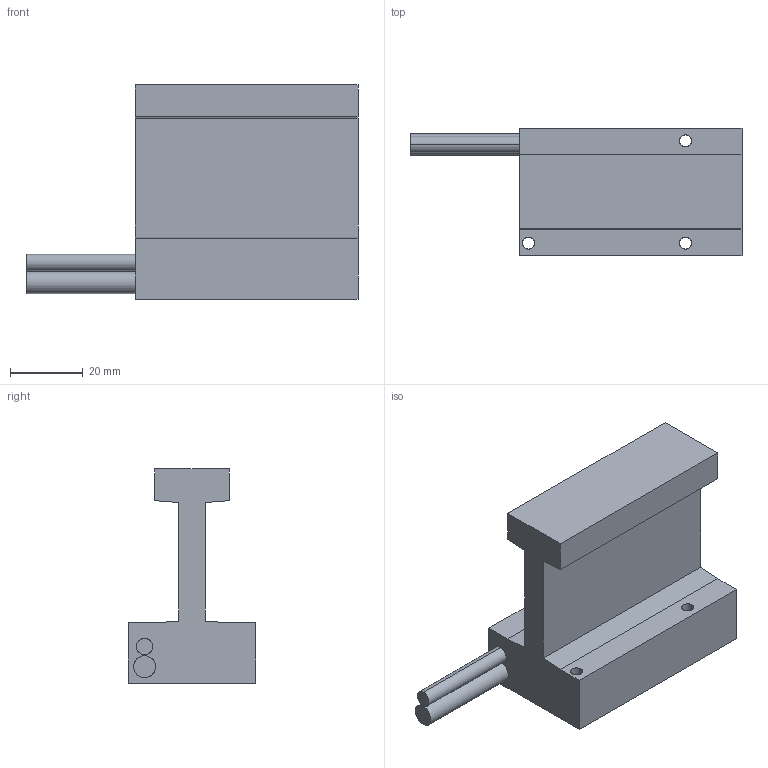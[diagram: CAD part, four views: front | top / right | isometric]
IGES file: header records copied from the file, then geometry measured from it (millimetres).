
Start section: SolidWorks IGES file using analytic representation for surfaces
Global section: file name: C:\Users\admin\Desktop\LM无铁芯U型电机 - 副本\FU300模型图\FU300-61.IGS; native system: SolidWorks 2016; preprocessor: SolidWorks 2016; author: admin; date: 201103.133934; units: millimetre
Bounding box: 91 x 35 x 58.7 mm (x, y, z)
Surface area: 16381.4 mm2 (no closed solid volume)
Topology: 0 solids, 0 shells, 28 faces, 444 edges, 444 vertices
Faces by surface type: bspline 18, revolution 10
